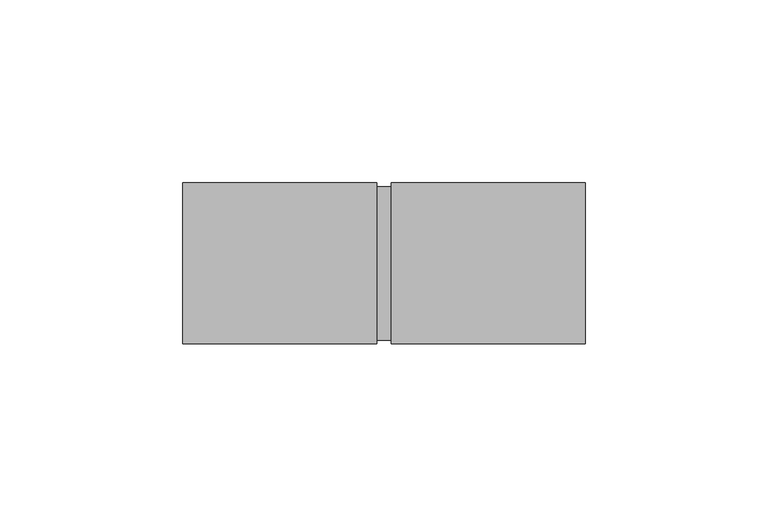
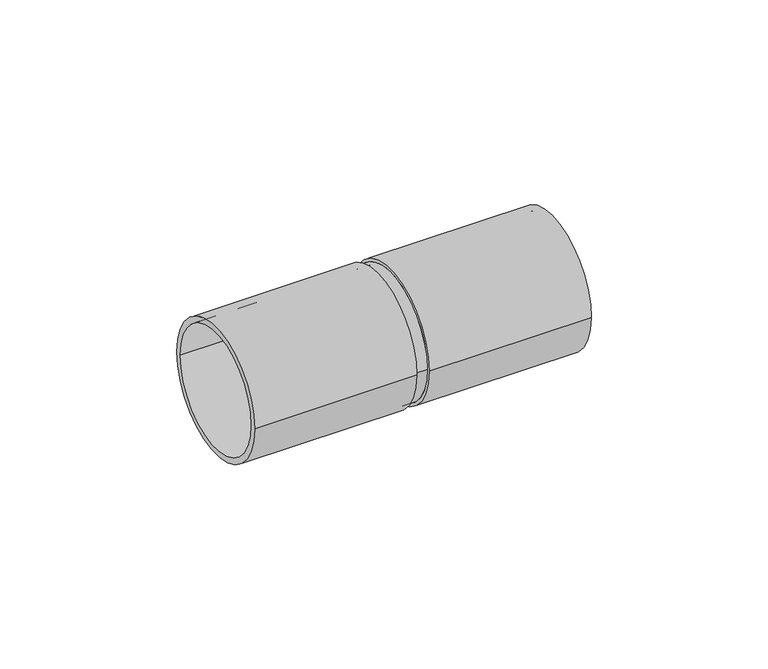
"""IFC4 building model written with IfcOpenShell, lengths in millimetres: cable carrier fitting geometry."""

import ifcopenshell
import ifcopenshell.guid

model = None  # the IFC model being written
_history = None  # IfcOwnerHistory: only IFC2X3 demands one
_inside = {}  # id of a spatial element -> (the spatial element, [elements in it])
_under = {}  # id of a project, library or spatial element -> (it, [spatial elements below it])
_declared = {}  # id of a project -> (the project, [libraries it declares])
_typed = {}  # id of a type object -> (the type object, [elements of that type])
_made_of = {}  # id of a material, layer set ... -> (it, [elements and type objects made of it])


def new_model(schema):
    """Start an empty IFC model of exactly this schema.

    Asked for "IFC4X3", IfcOpenShell would pick the latest addendum, in which some entities
    have other attributes; the version numbers below select the first issue.
    IFC2X3 requires an IfcOwnerHistory on every rooted entity: one is made here for all.
    """
    global model, _history
    if schema == "IFC4X3":
        model = ifcopenshell.file(schema_version=(4, 3, 0, 0))
    else:
        model = ifcopenshell.file(schema=schema)
    _inside.clear()
    _under.clear()
    _declared.clear()
    _typed.clear()
    _made_of.clear()
    _history = None
    if model.schema == "IFC2X3":
        org = make("IfcOrganization", Name="unknown")
        user = make(
            "IfcPersonAndOrganization",
            ThePerson=make("IfcPerson", FamilyName="unknown"),
            TheOrganization=org,
        )
        app = make(
            "IfcApplication",
            ApplicationDeveloper=org,
            Version="unknown",
            ApplicationFullName="unknown",
            ApplicationIdentifier="unknown",
        )
        _history = make(
            "IfcOwnerHistory",
            OwningUser=user,
            OwningApplication=app,
            ChangeAction="ADDED",
            CreationDate=0,
        )
    return model


def make(cls, **values):
    """One entity of the class cls with the attributes given. An attribute that is None is left unset."""
    return model.create_entity(
        cls, **{name: value for name, value in values.items() if value is not None}
    )


def rooted(cls, **values):
    """An entity with a GlobalId (a new one), such as an element, a storey or a relation."""
    return make(cls, GlobalId=ifcopenshell.guid.new(), OwnerHistory=_history, **values)


def si_unit(unit_type, name, prefix=None):
    """IfcSIUnit, for example si_unit("LENGTHUNIT", "METRE", prefix="MILLI")."""
    return make("IfcSIUnit", UnitType=unit_type, Prefix=prefix, Name=name)


def assignment(units):
    """IfcUnitAssignment: the units of a project."""
    return None if units is None else make("IfcUnitAssignment", Units=units)


def point(xyz):
    """IfcCartesianPoint."""
    return None if xyz is None else make("IfcCartesianPoint", Coordinates=xyz)


def direction(xyz):
    """IfcDirection."""
    return None if xyz is None else make("IfcDirection", DirectionRatios=xyz)


def frame(location, z_axis=None, x_axis=None):
    """IfcAxis2Placement3D, a coordinate frame: its origin and axes. An axis left out is left unset."""
    return make(
        "IfcAxis2Placement3D",
        Location=point(location),
        Axis=direction(z_axis),
        RefDirection=direction(x_axis),
    )


def origin():
    """The frame at (0, 0, 0) with its axes left unset."""
    return frame((0.0, 0.0, 0.0))


def place(relative_to, where):
    """IfcLocalPlacement: puts the frame where relative to a parent placement (None: the world)."""
    return make(
        "IfcLocalPlacement", PlacementRelTo=relative_to, RelativePlacement=where
    )


def context(
    kind, dimensions, precision=None, world=None, true_north=None, identifier=None
):
    """IfcGeometricRepresentationContext, for example the 3D "Model" context."""
    return make(
        "IfcGeometricRepresentationContext",
        ContextIdentifier=identifier,
        ContextType=kind,
        CoordinateSpaceDimension=dimensions,
        Precision=precision,
        WorldCoordinateSystem=world,
        TrueNorth=true_north,
    )


def project(units=None, contexts=None):
    """IfcProject with its units and contexts."""
    return rooted(
        "IfcProject",
        Name="project",
        RepresentationContexts=contexts,
        UnitsInContext=assignment(units),
    )


def spatial(cls, under=None, at=None, **own):
    """A site, building, storey or space (cls), placed at a placement, below another one or the project."""
    s = rooted(cls, ObjectPlacement=at, **own)
    if under is not None:
        _under.setdefault(under.id(), (under, []))[1].append(s)
    return s


def polyline(points):
    """IfcPolyline through the points."""
    return make("IfcPolyline", Points=[point(p) for p in points])


def circle_curve(where, radius):
    """IfcCircle in the frame where."""
    return make("IfcCircle", Position=where, Radius=radius)


def shape(context_of_items, identifier, shape_type, items):
    """IfcShapeRepresentation: the items that make up one representation, for example the "Body"."""
    return make(
        "IfcShapeRepresentation",
        ContextOfItems=context_of_items,
        RepresentationIdentifier=identifier,
        RepresentationType=shape_type,
        Items=items,
    )


def source(mapping_origin, context_of_items, identifier, shape_type, items):
    """IfcRepresentationMap: a shape defined once, which mapped items show again and again."""
    return make(
        "IfcRepresentationMap",
        MappingOrigin=mapping_origin,
        MappedRepresentation=shape(context_of_items, identifier, shape_type, items),
    )


def transform(
    local_origin,
    x_axis=None,
    y_axis=None,
    z_axis=None,
    scale=None,
    scale2=None,
    scale3=None,
    uniform=True,
):
    """IfcCartesianTransformationOperator3D, or its non-uniform kind. x_axis, y_axis, z_axis: its Axis1, 2, 3."""
    if uniform:
        return make(
            "IfcCartesianTransformationOperator3D",
            Axis1=direction(x_axis),
            Axis2=direction(y_axis),
            LocalOrigin=point(local_origin),
            Scale=scale,
            Axis3=direction(z_axis),
        )
    return make(
        "IfcCartesianTransformationOperator3DnonUniform",
        Axis1=direction(x_axis),
        Axis2=direction(y_axis),
        LocalOrigin=point(local_origin),
        Scale=scale,
        Axis3=direction(z_axis),
        Scale2=scale2,
        Scale3=scale3,
    )


def mapped(mapping_source, mapping_target):
    """IfcMappedItem: shows the shape of a source again, moved by a transform."""
    return make(
        "IfcMappedItem", MappingSource=mapping_source, MappingTarget=mapping_target
    )


def made_of(thing, what):
    """Note that an element or type object is made of a material, layer set ...; save() writes the relation."""
    if what is not None:
        _made_of.setdefault(what.id(), (what, []))[1].append(thing)
    return thing


def element(
    cls,
    number,
    at=None,
    inside=None,
    cuts=None,
    type_object=None,
    material=None,
    context=None,
    identifier="Body",
    shape_type=None,
    held_by="IfcProductDefinitionShape",
    body=None,
    shapes=None,
    **own,
):
    """One element of the class cls, such as IfcWall. Its Tag is "e" and its number.

    at: its placement. inside: the storey or other place that contains it. cuts: it is an
    opening in that element (IfcRelVoidsElement). A single representation is given by context,
    identifier, shape_type and body (its items); several are given by shapes. held_by: the class
    of the entity that holds the representations. save() writes the other relations.
    """
    e = rooted(cls, Tag="e%d" % number, ObjectPlacement=at, **own)
    if body is not None:
        shapes = [shape(context, identifier, shape_type, body)]
    if shapes is not None:
        e.Representation = make(held_by, Representations=shapes)
    if inside is not None:
        _inside.setdefault(inside.id(), (inside, []))[1].append(e)
    if cuts is not None:
        rooted(
            "IfcRelVoidsElement", RelatingBuildingElement=cuts, RelatedOpeningElement=e
        )
    if type_object is not None:
        _typed.setdefault(type_object.id(), (type_object, []))[1].append(e)
    return made_of(e, material)


def aggregate(whole, parts):
    """IfcRelAggregates: a whole, such as a stair, and the parts it consists of."""
    return rooted("IfcRelAggregates", RelatingObject=whole, RelatedObjects=parts)


def save(model, path):
    """Write the relations noted so far, then the file.

    IfcRelAggregates (storeys below a building ...), IfcRelContainedInSpatialStructure (elements
    in a storey), IfcRelDefinesByType, IfcRelAssociatesMaterial and IfcRelDeclares: one each for
    every whole, place, type object, material and project.
    """
    for whole, parts in _under.values():
        aggregate(whole, parts)
    for where, things in _inside.values():
        rooted(
            "IfcRelContainedInSpatialStructure",
            RelatedElements=things,
            RelatingStructure=where,
        )
    for kind, things in _typed.values():
        rooted("IfcRelDefinesByType", RelatedObjects=things, RelatingType=kind)
    for what, things in _made_of.values():
        rooted("IfcRelAssociatesMaterial", RelatedObjects=things, RelatingMaterial=what)
    for by, libraries in _declared.values():
        rooted("IfcRelDeclares", RelatingContext=by, RelatedDefinitions=libraries)
    model.write(path)


def plane_surface(at):
    """IfcPlane: the flat surface through the origin of the frame at, square to its z axis."""
    return make("IfcPlane", Position=at)


def cylinder_surface(at, radius):
    """IfcCylindricalSurface: all points at the distance radius from the z axis of the frame at."""
    return make("IfcCylindricalSurface", Position=at, Radius=radius)


def revolved_surface(curve, axis_point, axis_direction):
    """IfcSurfaceOfRevolution: the curve turned about the line through axis_point along axis_direction."""
    return make(
        "IfcSurfaceOfRevolution",
        SweptCurve=make("IfcArbitraryOpenProfileDef", ProfileType="CURVE", Curve=curve),
        AxisPosition=make("IfcAxis1Placement", Location=point(axis_point), Axis=direction(axis_direction)),
    )


def advanced_brep(points, edges, surfaces, faces):
    """IfcAdvancedBrep: a solid bounded by faces that lie on surfaces and meet in shared edges.

    An edge is (start, end): straight between two places in points (the first is 0);
    or (start, end, curve); or (start, end, curve, False) where it runs against its curve.
    A face is (place in surfaces, loops), or (place, loops, False) where it looks against
    its surface's normal. A loop lists edges by number (the first is 1), with a minus sign
    where the edge is run from its end to its start. The first loop is the outer one.
    """
    corners = [point(p) for p in points]
    vertices = [make("IfcVertexPoint", VertexGeometry=c) for c in corners]
    made = []
    for start, end, *more in edges:
        made.append(
            make(
                "IfcEdgeCurve",
                EdgeStart=vertices[start],
                EdgeEnd=vertices[end],
                EdgeGeometry=more[0] if more else make("IfcPolyline", Points=[corners[start], corners[end]]),
                SameSense=more[1] if len(more) > 1 else True,
            )
        )
    hull = []
    for where, loops, *sense in faces:
        bounds = []
        for j, loop in enumerate(loops):
            ring = [make("IfcOrientedEdge", EdgeElement=made[abs(k) - 1], Orientation=k > 0) for k in loop]
            bounds.append(
                make(
                    "IfcFaceOuterBound" if j == 0 else "IfcFaceBound",
                    Bound=make("IfcEdgeLoop", EdgeList=ring),
                    Orientation=True,
                )
            )
        hull.append(make("IfcAdvancedFace", Bounds=bounds, FaceSurface=surfaces[where], SameSense=sense[0] if sense else True))
    return make("IfcAdvancedBrep", Outer=make("IfcClosedShell", CfsFaces=hull))


def cable_carrier_fitting_63069963(model_context):
    return source(origin(), model_context, "Body", "AdvancedBrep", [
        advanced_brep(
        [(-55.0, -22.0, 0.0), (-55.0, 22.0, 0.0), (-55.0, -20.0, 0.0), (-55.0, 20.0, 0.0), (-2.0, -22.0, 0.0), (-2.0, 22.0, 0.0), (-2.0, -21.0, 0.0), (-2.0, 21.0, 0.0), (-2.0, 20.0, 0.0), (-2.0, -20.0, 0.0), (2.0, -20.0, 0.0), (2.0, 20.0, 0.0), (2.0, -21.0, 0.0), (2.0, 21.0, 0.0), (2.0, -22.0, 0.0), (2.0, 22.0, 0.0), (55.0, -22.0, 0.0), (55.0, 22.0, 0.0), (55.0, -20.0, 0.0), (55.0, 20.0, 0.0)],
        [
            (0, 1, circle_curve(frame((-55.0, 0.0, 0.0), z_axis=(-1.0, 0.0, 0.0), x_axis=(0.0, 1.0, 0.0)), 22.0)),
            (1, 0, circle_curve(frame((-55.0, 0.0, 0.0), z_axis=(-1.0, 0.0, 0.0), x_axis=(0.0, 1.0, 0.0)), 22.0)),
            (2, 3, circle_curve(frame((-55.0, 0.0, 0.0), z_axis=(1.0, 0.0, 0.0), x_axis=(0.0, 1.0, 0.0)), 20.0)),
            (3, 2, circle_curve(frame((-55.0, 0.0, 0.0), z_axis=(1.0, 0.0, 0.0), x_axis=(0.0, 1.0, 0.0)), 20.0)),
            (4, 5, circle_curve(frame((-2.0, 0.0, 0.0), z_axis=(1.0, 0.0, 0.0), x_axis=(0.0, 1.0, 0.0)), 22.0)),
            (5, 4, circle_curve(frame((-2.0, 0.0, 0.0), z_axis=(1.0, 0.0, 0.0), x_axis=(0.0, 1.0, 0.0)), 22.0)),
            (6, 7, circle_curve(frame((-2.0, 0.0, 0.0), z_axis=(-1.0, 0.0, 0.0), x_axis=(0.0, 1.0, 0.0)), 21.0)),
            (7, 6, circle_curve(frame((-2.0, 0.0, 0.0), z_axis=(-1.0, 0.0, 0.0), x_axis=(0.0, 1.0, 0.0)), 21.0)),
            (3, 8),
            (8, 9, circle_curve(frame((-2.0, 0.0, 0.0), z_axis=(1.0, 0.0, 0.0), x_axis=(0.0, 1.0, 0.0)), 20.0)),
            (9, 2),
            (9, 8, circle_curve(frame((-2.0, 0.0, 0.0), z_axis=(1.0, 0.0, 0.0), x_axis=(0.0, 1.0, 0.0)), 20.0)),
            (1, 5),
            (4, 0),
            (9, 10),
            (10, 11, circle_curve(frame((2.0, 0.0, 0.0), z_axis=(1.0, 0.0, 0.0), x_axis=(0.0, 1.0, 0.0)), 20.0)),
            (11, 8),
            (11, 10, circle_curve(frame((2.0, 0.0, 0.0), z_axis=(1.0, 0.0, 0.0), x_axis=(0.0, 1.0, 0.0)), 20.0)),
            (6, 12),
            (12, 13, circle_curve(frame((2.0, 0.0, 0.0), z_axis=(-1.0, 0.0, 0.0), x_axis=(0.0, 1.0, 0.0)), 21.0)),
            (13, 7),
            (13, 12, circle_curve(frame((2.0, 0.0, 0.0), z_axis=(-1.0, 0.0, 0.0), x_axis=(0.0, 1.0, 0.0)), 21.0)),
            (14, 15, circle_curve(frame((2.0, 0.0, 0.0), z_axis=(-1.0, 0.0, 0.0), x_axis=(0.0, 1.0, 0.0)), 22.0)),
            (15, 14, circle_curve(frame((2.0, 0.0, 0.0), z_axis=(-1.0, 0.0, 0.0), x_axis=(0.0, 1.0, 0.0)), 22.0)),
            (16, 17, circle_curve(frame((55.0, 0.0, 0.0), z_axis=(1.0, 0.0, 0.0), x_axis=(0.0, 1.0, 0.0)), 22.0)),
            (17, 16, circle_curve(frame((55.0, 0.0, 0.0), z_axis=(1.0, 0.0, 0.0), x_axis=(0.0, 1.0, 0.0)), 22.0)),
            (18, 19, circle_curve(frame((55.0, 0.0, 0.0), z_axis=(-1.0, 0.0, 0.0), x_axis=(0.0, 1.0, 0.0)), 20.0)),
            (19, 18, circle_curve(frame((55.0, 0.0, 0.0), z_axis=(-1.0, 0.0, 0.0), x_axis=(0.0, 1.0, 0.0)), 20.0)),
            (14, 16),
            (17, 15),
            (19, 11),
            (10, 18),
        ],
        [
            plane_surface(frame((-55.0, 0.0, 0.0), z_axis=(-1.0, 0.0, 0.0), x_axis=(0.0, 0.0, 1.0))),
            plane_surface(frame((-2.0, 0.0, 0.0), z_axis=(1.0, 0.0, 0.0), x_axis=(0.0, 0.0, 1.0))),
            revolved_surface(polyline([(-2.0, 20.0, 0.0), (-55.0, 20.0, 0.0)]), (-55.0, 0.0, 0.0), (1.0, 0.0, 0.0)),
            cylinder_surface(frame((-55.0, 0.0, 0.0), z_axis=(-1.0, 0.0, 0.0), x_axis=(0.0, 1.0, 0.0)), 22.0),
            revolved_surface(polyline([(2.0, 20.0, 0.0), (-2.0, 20.0, 0.0)]), (-2.0, 0.0, 0.0), (1.0, 0.0, 0.0)),
            cylinder_surface(frame((-2.0, 0.0, 0.0), z_axis=(-1.0, 0.0, 0.0), x_axis=(0.0, 1.0, 0.0)), 21.0),
            plane_surface(frame((2.0, 0.0, 0.0), z_axis=(-1.0, 0.0, 0.0), x_axis=(0.0, 0.0, 1.0))),
            plane_surface(frame((55.0, 0.0, 0.0), z_axis=(1.0, 0.0, 0.0), x_axis=(0.0, 0.0, 1.0))),
            cylinder_surface(frame((2.0, 0.0, 0.0), z_axis=(-1.0, 0.0, 0.0), x_axis=(0.0, 1.0, 0.0)), 22.0),
            revolved_surface(polyline([(55.0, 20.0, 0.0), (2.0, 20.0, 0.0)]), (2.0, 0.0, 0.0), (1.0, 0.0, 0.0)),
        ],
        [
            (0, [[1, 2], [3, 4]]),
            (1, [[5, 6], [7, 8]]),
            (2, [[-4, 9, 10, 11]]),
            (2, [[-3, -11, 12, -9]]),
            (3, [[-2, 13, -5, 14]]),
            (3, [[-1, -14, -6, -13]]),
            (4, [[15, 16, 17, -12]]),
            (4, [[-15, -10, -17, 18]]),
            (5, [[19, 20, 21, -7]]),
            (5, [[-19, -8, -21, 22]]),
            (6, [[23, 24], [-20, -22]]),
            (7, [[25, 26], [27, 28]]),
            (8, [[-23, 29, -26, 30]]),
            (8, [[-24, -30, -25, -29]]),
            (9, [[-28, 31, -16, 32]]),
            (9, [[-27, -32, -18, -31]]),
        ],
    ),
    ])


if __name__ == "__main__":
    model = new_model("IFC4")
    model_context = context("Model", 3, world=origin())
    ifc_project = project(units=[si_unit("LENGTHUNIT", "METRE", prefix="MILLI")], contexts=[model_context])
    site = spatial("IfcSite", under=ifc_project)
    building = spatial("IfcBuilding", under=site)
    placement = place(None, origin())
    cable_carrier_fitting_shape = cable_carrier_fitting_63069963(model_context)
    element("IfcCableCarrierFitting", 1, at=placement, inside=building, context=model_context, shape_type="MappedRepresentation", body=[
        mapped(cable_carrier_fitting_shape, transform((0.0, 0.0, 0.0), x_axis=(1.0, 0.0, 0.0), y_axis=(0.0, 1.0, 0.0), z_axis=(0.0, 0.0, 1.0))),
    ])
    save(model, "model.ifc")
